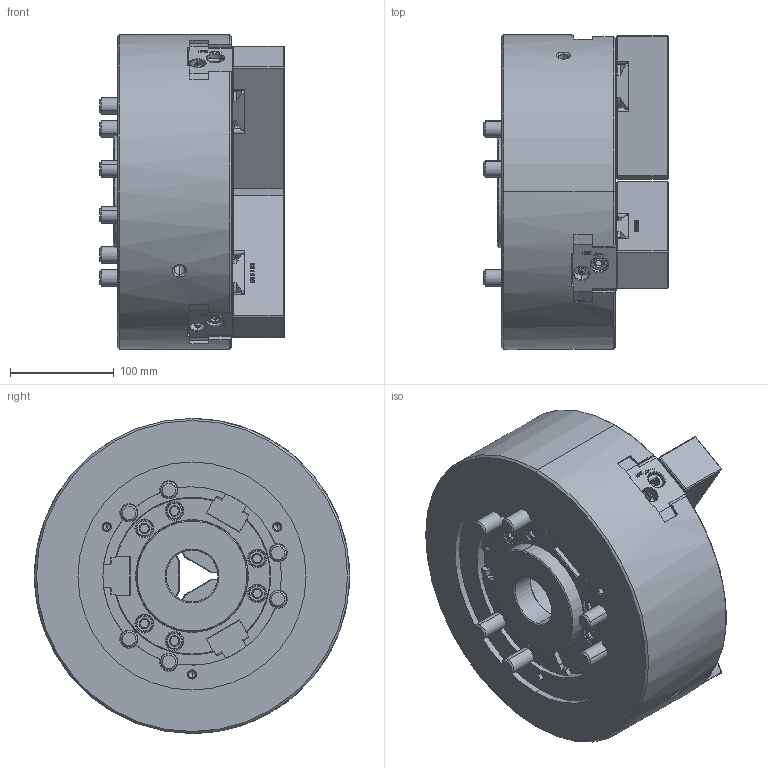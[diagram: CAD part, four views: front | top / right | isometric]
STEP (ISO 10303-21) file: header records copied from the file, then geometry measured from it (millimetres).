
FILE_DESCRIPTION (( 'STEP AP214' ), '1' );
FILE_NAME ('DT1_QB312_OUTSIDE_VIEW_HOL.STEP', '2025-12-05T07:16:38', ( '' ), ( '' ), 'SwSTEP 2.0', 'SolidWorks 2022', '' );
FILE_SCHEMA (( 'AUTOMOTIVE_DESIGN' ));
Length unit declared in the file: millimetre
Products named in the file (7): DT1_QB312_OUTSIDE_VIEW_HOL; DT1_QB312_M16x110^DT1_QB312; DT1_QB312_COVER^DT1_QB312; DT1_QB312_M6x10^DT1_QB312; DT1_QB312_SOFTJAW^DT1_QB312; DT1_QB312_DRAWNUT^DT1_QB312; DT1_QB312_BASE^DT1_QB312
Assembly tree (15 placements, depth 2):
  DT1_QB312_OUTSIDE_VIEW_HOL
    DT1_QB312_SOFTJAW^DT1_QB312  x3
    DT1_QB312_DRAWNUT^DT1_QB312
    DT1_QB312_COVER^DT1_QB312
    DT1_QB312_M6x10^DT1_QB312  x3
    DT1_QB312_M16x110^DT1_QB312  x6
    DT1_QB312_BASE^DT1_QB312
Bounding box: 178 x 304 x 304 mm (x, y, z)
Volume: 7917035.7 mm3; surface area: 566129 mm2
Topology: 15 solids, 18 shells, 2605 faces, 6788 edges, 4351 vertices
Faces by surface type: plane 1214, bspline 482, cylinder 425, cone 406, torus 66, sphere 12
Entity records: 75873 total; most frequent: CARTESIAN_POINT 27804, ORIENTED_EDGE 10560, DIRECTION 8746, EDGE_CURVE 5280, VERTEX_POINT 3414, AXIS2_PLACEMENT_3D 2942, VECTOR 2862, LINE 2862
